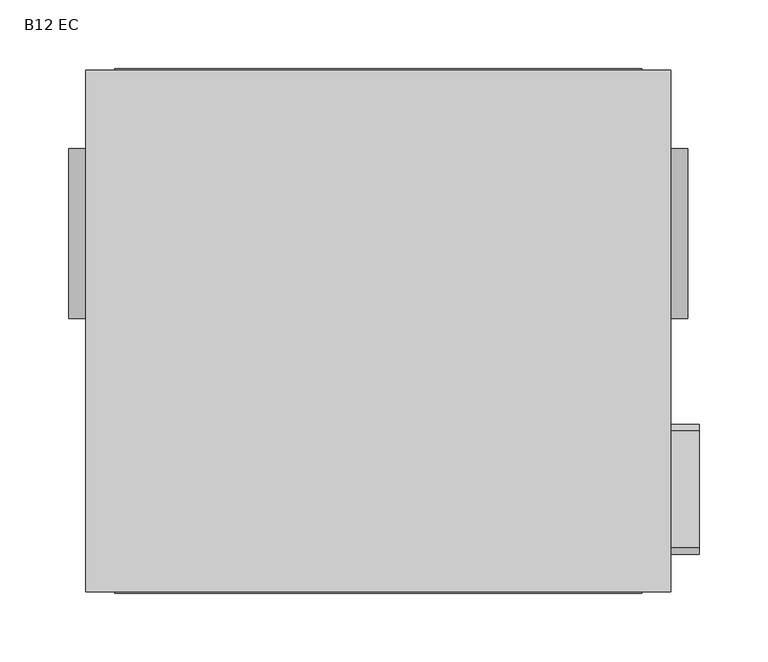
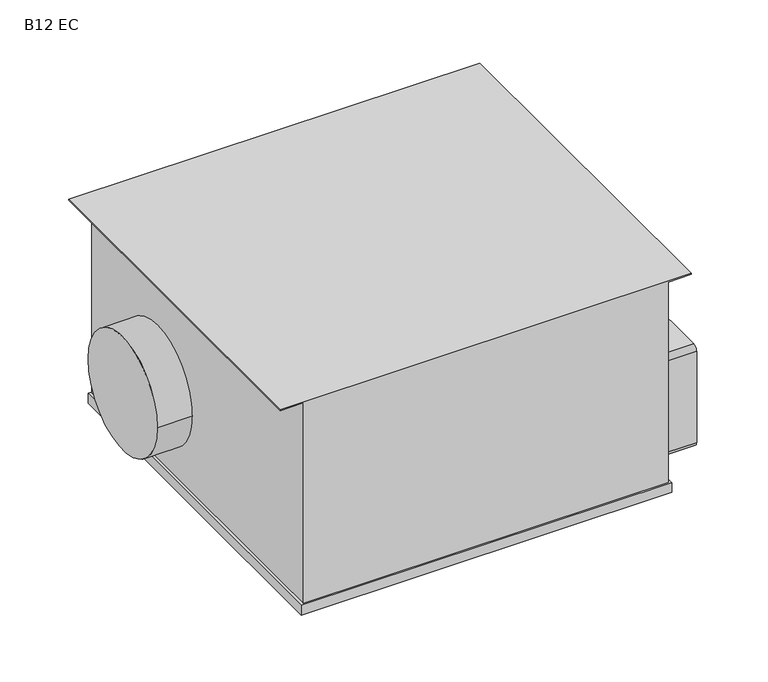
"""IFC4 building model written with IfcOpenShell, lengths in millimetres: unitary equipment geometry, VE-Wentylator-ParaForma-Harmann-SENSOVENT_DUCT_B_EC-Wywiewny : B12 EC."""

from ifc_helpers import new_model, si_unit, point, frame, frame_2d, origin, origin_2d, place, context, project, spatial, polyline, circle_curve, trimmed, segment, composite_curve, outline, extrude, source, transform, mapped, element, save


def b12_ec_1ab13a20(model_context):
    return source(origin(), model_context, "Body", "SweptSolid", [
        extrude(outline(composite_curve([segment(trimmed(circle_curve(frame_2d((-229.0, -73.0)), 5.0), [point((-229.0, -78.0))], [point((-234.0, -73.0))], False, "CARTESIAN"), True, "CONTINUOUS"), segment(polyline([(-234.0, -73.0), (-234.0, 27.0)]), True, "CONTINUOUS"), segment(trimmed(circle_curve(frame_2d((-229.0, 27.0)), 5.0), [point((-234.0, 27.0))], [point((-229.0, 32.0))], False, "CARTESIAN"), True, "CONTINUOUS"), segment(polyline([(-229.0, 32.0), (-144.0, 32.0)]), True, "CONTINUOUS"), segment(trimmed(circle_curve(frame_2d((-144.0, 27.0)), 5.0), [point((-144.0, 32.0))], [point((-139.0, 27.0))], False, "CARTESIAN"), True, "CONTINUOUS"), segment(polyline([(-139.0, 27.0), (-139.0, -73.0)]), True, "CONTINUOUS"), segment(trimmed(circle_curve(frame_2d((-144.0, -73.0)), 5.0), [point((-139.0, -73.0))], [point((-144.0, -78.0))], False, "CARTESIAN"), True, "CONTINUOUS"), segment(polyline([(-144.0, -78.0), (-229.0, -78.0)]), True, "CONTINUOUS")], self_intersect=False)), frame((189.0, 0.0, 0.0), z_axis=(1.0, 0.0, 0.0), x_axis=(0.0, 1.0, 0.0)), (0.0, 0.0, 1.0), 45.0),
        extrude(outline(polyline([(-192.0, -262.3), (-192.0, 120.3), (192.0, 120.3), (192.0, -262.3), (-192.0, -262.3)])), frame((0.0, 0.0, -95.8), z_axis=(0.0, 0.0, 1.0), x_axis=(1.0, 0.0, 0.0)), (0.0, 0.0, 1.0), 10.9),
        extrude(outline(polyline([(136.0, -213.0), (135.0, -213.0), (135.0, -189.0), (-84.9, -189.0), (-84.9, 189.0), (135.0, 189.0), (135.0, 213.0), (136.0, 213.0), (136.0, -213.0)])), frame((0.0, -261.0, 0.0), z_axis=(0.0, 1.0, 0.0), x_axis=(0.0, 0.0, 1.0)), (0.0, 0.0, 1.0), 380.0),
        extrude(outline(composite_curve([segment(trimmed(circle_curve(origin_2d(), 62.0), [point((-62.0, 0.0))], [point((62.0, 0.0))], False, "CARTESIAN"), True, "CONTINUOUS"), segment(trimmed(circle_curve(origin_2d(), 62.0), [point((62.0, 0.0))], [point((-62.0, 0.0))], False, "CARTESIAN"), True, "CONTINUOUS")], self_intersect=False)), frame((189.0, 0.0, 0.0), z_axis=(1.0, 0.0, 0.0), x_axis=(0.0, 1.0, 0.0)), (0.0, 0.0, 1.0), 36.5),
        extrude(outline(composite_curve([segment(trimmed(circle_curve(origin_2d(), 62.0), [point((-62.0, 0.0))], [point((62.0, 0.0))], False, "CARTESIAN"), True, "CONTINUOUS"), segment(trimmed(circle_curve(origin_2d(), 62.0), [point((62.0, 0.0))], [point((-62.0, 0.0))], False, "CARTESIAN"), True, "CONTINUOUS")], self_intersect=False)), frame((-225.5, 0.0, 0.0), z_axis=(1.0, 0.0, 0.0), x_axis=(0.0, 1.0, 0.0)), (0.0, 0.0, 1.0), 36.5),
    ])


if __name__ == "__main__":
    model = new_model("IFC4")
    model_context = context("Model", 3, world=origin())
    ifc_project = project(units=[si_unit("LENGTHUNIT", "METRE", prefix="MILLI")], contexts=[model_context])
    site = spatial("IfcSite", under=ifc_project)
    building = spatial("IfcBuilding", under=site)
    placement = place(None, origin())
    b12_ec_shape = b12_ec_1ab13a20(model_context)
    element("IfcUnitaryEquipment", 1, ObjectType="VE-Wentylator-ParaForma-Harmann-SENSOVENT_DUCT_B_EC-Wywiewny : B12 EC", at=placement, inside=building, context=model_context, shape_type="MappedRepresentation", body=[
        mapped(b12_ec_shape, transform((0.0, 0.0, 0.0), x_axis=(1.0, 0.0, 0.0), y_axis=(0.0, 1.0, 0.0), z_axis=(0.0, 0.0, 1.0))),
    ])
    save(model, "model.ifc")
